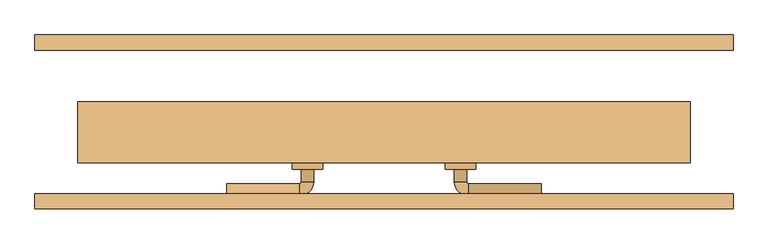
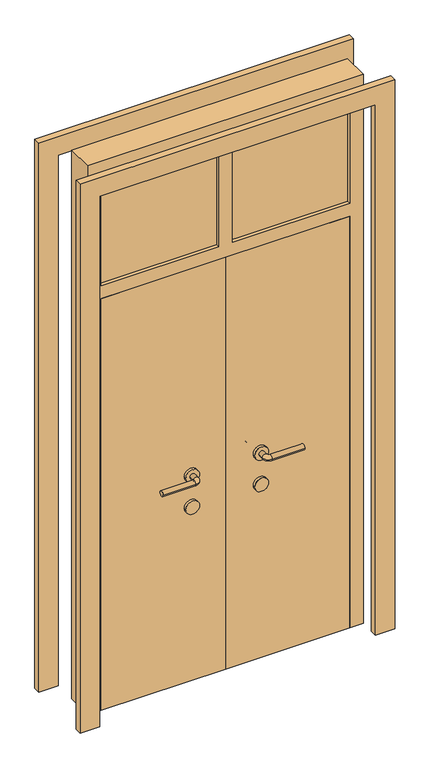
"""IFC4 building model written with IfcOpenShell, lengths in millimetres: door geometry, FM(丙）1 : FM(丙）1."""

from ifc_helpers import new_model, si_unit, point, frame, frame_2d, origin, origin_with_axes, place, context, project, spatial, polyline, circle_curve, ellipse_curve, trimmed, segment, composite_curve, outline, extrude, source, transform, mapped, element, save
from ifc_brep_helpers import plane_surface, cylinder_surface, revolved_surface, advanced_brep


def door_7422e6be(model_context):
    return source(origin(), model_context, "Body", "SolidModel", [
        extrude(outline(composite_curve([segment(trimmed(circle_curve(frame_2d((667.5, 125.0)), 25.0), [point((667.5, 150.0))], [point((667.5, 100.0))], False, "CARTESIAN"), True, "CONTINUOUS"), segment(trimmed(circle_curve(frame_2d((667.5, 125.0)), 25.0), [point((667.5, 100.0))], [point((667.5, 150.0))], False, "CARTESIAN"), True, "CONTINUOUS")], self_intersect=False)), frame((0.0, -27.0, 0.0), z_axis=(0.0, 1.0, 0.0), x_axis=(0.0, 0.0, 1.0)), (0.0, 0.0, 1.0), 10.0),
        extrude(outline(composite_curve([segment(trimmed(circle_curve(frame_2d((667.5, 125.0)), 25.0), [point((667.5, 150.0))], [point((667.5, 100.0))], False, "CARTESIAN"), True, "CONTINUOUS"), segment(trimmed(circle_curve(frame_2d((667.5, 125.0)), 25.0), [point((667.5, 100.0))], [point((667.5, 150.0))], False, "CARTESIAN"), True, "CONTINUOUS")], self_intersect=False)), frame((0.0, -77.0, 0.0), z_axis=(0.0, 1.0, 0.0), x_axis=(0.0, 0.0, 1.0)), (0.0, 0.0, 1.0), 10.0),
        advanced_brep(
        [(115.0, -17.0, 787.5), (135.0, -17.0, 787.5), (115.0, 3.6133551, 787.5), (135.0, 3.6133551, 787.5), (256.580964, 26.580964, 787.5), (256.580964, 6.580964, 787.5), (137.9676089, 6.580964, 787.5), (137.9676089, 26.580964, 787.5)],
        [
            (0, 1, circle_curve(frame((125.0, -17.0, 787.5), z_axis=(0.0, -1.0, 0.0), x_axis=(1.0, 0.0, 0.0)), 10.0)),
            (1, 0, circle_curve(frame((125.0, -17.0, 787.5), z_axis=(0.0, -1.0, 0.0), x_axis=(1.0, 0.0, 0.0)), 10.0)),
            (0, 2),
            (2, 3, circle_curve(frame((125.0, 3.6133551, 787.5), z_axis=(0.0, -1.0, 0.0), x_axis=(1.0, 0.0, 0.0)), 10.0)),
            (3, 1),
            (3, 2, circle_curve(frame((125.0, 3.6133551, 787.5), z_axis=(0.0, -1.0, 0.0), x_axis=(1.0, 0.0, 0.0)), 10.0)),
            (4, 5, circle_curve(frame((256.580964, 16.580964, 787.5), z_axis=(1.0, 0.0, 0.0), x_axis=(0.0, -1.0, 0.0)), 10.0)),
            (5, 4, circle_curve(frame((256.580964, 16.580964, 787.5), z_axis=(1.0, 0.0, 0.0), x_axis=(0.0, -1.0, 0.0)), 10.0)),
            (6, 7, circle_curve(frame((137.9676089, 16.580964, 787.5), z_axis=(-1.0, 0.0, 0.0), x_axis=(0.0, -1.0, 0.0)), 10.0)),
            (7, 2, circle_curve(frame((137.9676089, 3.6133551, 787.5), z_axis=(0.0, 0.0, 1.0), x_axis=(-1.0, 0.0, 0.0)), 22.9676089)),
            (3, 6, circle_curve(frame((137.9676089, 3.6133551, 787.5), z_axis=(0.0, 0.0, -1.0), x_axis=(-1.0, 0.0, 0.0)), 2.9676089)),
            (7, 6, circle_curve(frame((137.9676089, 16.580964, 787.5), z_axis=(-1.0, 0.0, 0.0), x_axis=(0.0, -1.0, 0.0)), 10.0)),
            (6, 5),
            (4, 7),
        ],
        [
            plane_surface(frame((125.0, -17.0, 667.5), z_axis=(0.0, -1.0, 0.0), x_axis=(0.0, 0.0, 1.0))),
            cylinder_surface(frame((125.0, -17.0, 787.5), z_axis=(0.0, -1.0, 0.0), x_axis=(1.0, 0.0, 0.0)), 10.0),
            plane_surface(frame((256.580964, 16.580964, 667.5), z_axis=(1.0, 0.0, 0.0), x_axis=(0.0, 0.0, 1.0))),
            revolved_surface(trimmed(ellipse_curve(frame((125.0, 3.6133551, 787.5), z_axis=(0.0, 1.0, 0.0), x_axis=(1.0, 0.0, 0.0)), 10.0, 10.0), [point((115.0, 3.6133551, 787.5))], [point((135.0, 3.6133551, 787.5))], True, "CARTESIAN"), (137.9676089, 3.6133551, 667.5), (0.0, 0.0, 1.0)),
            revolved_surface(trimmed(ellipse_curve(frame((125.0, 3.6133551, 787.5), z_axis=(0.0, 1.0, 0.0), x_axis=(1.0, 0.0, 0.0)), 10.0, 10.0), [point((135.0, 3.6133551, 787.5))], [point((115.0, 3.6133551, 787.5))], True, "CARTESIAN"), (137.9676089, 3.6133551, 667.5), (0.0, 0.0, 1.0)),
            cylinder_surface(frame((137.9676089, 16.580964, 787.5), z_axis=(-1.0, 0.0, 0.0), x_axis=(0.0, -1.0, 0.0)), 10.0),
        ],
        [
            (0, [[1, 2]]),
            (1, [[3, 4, 5, -1]]),
            (1, [[-5, 6, -3, -2]]),
            (2, [[7, 8]]),
            (3, [[9, 10, -6, 11]]),
            (4, [[12, -11, -4, -10]]),
            (5, [[13, -7, 14, -9]]),
            (5, [[-14, -8, -13, -12]]),
        ],
    ),
        extrude(outline(composite_curve([segment(trimmed(circle_curve(frame_2d((787.5, 125.0)), 25.0), [point((787.5, 150.0))], [point((787.5, 100.0))], False, "CARTESIAN"), True, "CONTINUOUS"), segment(trimmed(circle_curve(frame_2d((787.5, 125.0)), 25.0), [point((787.5, 100.0))], [point((787.5, 150.0))], False, "CARTESIAN"), True, "CONTINUOUS")], self_intersect=False)), frame((0.0, -27.0, 0.0), z_axis=(0.0, 1.0, 0.0), x_axis=(0.0, 0.0, 1.0)), (0.0, 0.0, 1.0), 10.0),
        advanced_brep(
        [(135.0, -77.0, 787.5), (115.0, -77.0, 787.5), (115.0, -97.6133551, 787.5), (135.0, -97.6133551, 787.5), (256.580964, -100.580964, 787.5), (256.580964, -120.580964, 787.5), (137.9676089, -120.580964, 787.5), (137.9676089, -100.580964, 787.5)],
        [
            (0, 1, circle_curve(frame((125.0, -77.0, 787.5), z_axis=(0.0, 1.0, 0.0), x_axis=(-1.0, 0.0, 0.0)), 10.0)),
            (1, 0, circle_curve(frame((125.0, -77.0, 787.5), z_axis=(0.0, 1.0, 0.0), x_axis=(-1.0, 0.0, 0.0)), 10.0)),
            (1, 2),
            (2, 3, circle_curve(frame((125.0, -97.6133551, 787.5), z_axis=(0.0, 1.0, 0.0), x_axis=(-1.0, 0.0, 0.0)), 10.0)),
            (3, 0),
            (3, 2, circle_curve(frame((125.0, -97.6133551, 787.5), z_axis=(0.0, 1.0, 0.0), x_axis=(-1.0, 0.0, 0.0)), 10.0)),
            (4, 5, circle_curve(frame((256.580964, -110.580964, 787.5), z_axis=(1.0, 0.0, 0.0), x_axis=(0.0, -1.0, 0.0)), 10.0)),
            (5, 4, circle_curve(frame((256.580964, -110.580964, 787.5), z_axis=(1.0, 0.0, 0.0), x_axis=(0.0, -1.0, 0.0)), 10.0)),
            (6, 7, circle_curve(frame((137.9676089, -110.580964, 787.5), z_axis=(-1.0, 0.0, 0.0), x_axis=(0.0, -1.0, 0.0)), 10.0)),
            (7, 3, circle_curve(frame((137.9676089, -97.6133551, 787.5), z_axis=(0.0, 0.0, -1.0), x_axis=(-1.0, 0.0, 0.0)), 2.9676089)),
            (2, 6, circle_curve(frame((137.9676089, -97.6133551, 787.5), z_axis=(0.0, 0.0, 1.0), x_axis=(-1.0, 0.0, 0.0)), 22.9676089)),
            (7, 6, circle_curve(frame((137.9676089, -110.580964, 787.5), z_axis=(-1.0, 0.0, 0.0), x_axis=(0.0, -1.0, 0.0)), 10.0)),
            (6, 5),
            (4, 7),
        ],
        [
            plane_surface(frame((125.0, -77.0, 667.5), z_axis=(0.0, 1.0, 0.0), x_axis=(0.0, 0.0, 1.0))),
            cylinder_surface(frame((125.0, -77.0, 787.5), z_axis=(0.0, 1.0, 0.0), x_axis=(-1.0, 0.0, 0.0)), 10.0),
            plane_surface(frame((256.580964, -110.580964, 667.5), z_axis=(1.0, 0.0, 0.0), x_axis=(0.0, 0.0, 1.0))),
            revolved_surface(trimmed(ellipse_curve(frame((125.0, -97.6133551, 787.5), z_axis=(0.0, -1.0, 0.0), x_axis=(-1.0, 0.0, 0.0)), 10.0, 10.0), [point((135.0, -97.6133551, 787.5))], [point((115.0, -97.6133551, 787.5))], True, "CARTESIAN"), (137.9676089, -97.6133551, 667.5), (0.0, 0.0, -1.0)),
            revolved_surface(trimmed(ellipse_curve(frame((125.0, -97.6133551, 787.5), z_axis=(0.0, -1.0, 0.0), x_axis=(-1.0, 0.0, 0.0)), 10.0, 10.0), [point((115.0, -97.6133551, 787.5))], [point((135.0, -97.6133551, 787.5))], True, "CARTESIAN"), (137.9676089, -97.6133551, 667.5), (0.0, 0.0, -1.0)),
            cylinder_surface(frame((137.9676089, -110.580964, 787.5), z_axis=(-1.0, 0.0, 0.0), x_axis=(0.0, -1.0, 0.0)), 10.0),
        ],
        [
            (0, [[1, 2]]),
            (1, [[3, 4, 5, -2]]),
            (1, [[-5, 6, -3, -1]]),
            (2, [[7, 8]]),
            (3, [[9, 10, -4, 11]]),
            (4, [[12, -11, -6, -10]]),
            (5, [[13, -7, 14, -9]]),
            (5, [[-14, -8, -13, -12]]),
        ],
    ),
        extrude(outline(composite_curve([segment(trimmed(circle_curve(frame_2d((787.5, 125.0)), 25.0), [point((787.5, 150.0))], [point((787.5, 100.0))], False, "CARTESIAN"), True, "CONTINUOUS"), segment(trimmed(circle_curve(frame_2d((787.5, 125.0)), 25.0), [point((787.5, 100.0))], [point((787.5, 150.0))], False, "CARTESIAN"), True, "CONTINUOUS")], self_intersect=False)), frame((0.0, -77.0, 0.0), z_axis=(0.0, 1.0, 0.0), x_axis=(0.0, 0.0, 1.0)), (0.0, 0.0, 1.0), 10.0),
        extrude(outline(composite_curve([segment(trimmed(circle_curve(frame_2d((667.5, -125.0)), 25.0), [point((667.5, -150.0))], [point((667.5, -100.0))], False, "CARTESIAN"), True, "CONTINUOUS"), segment(trimmed(circle_curve(frame_2d((667.5, -125.0)), 25.0), [point((667.5, -100.0))], [point((667.5, -150.0))], False, "CARTESIAN"), True, "CONTINUOUS")], self_intersect=False)), frame((0.0, -77.0, 0.0), z_axis=(0.0, 1.0, 0.0), x_axis=(0.0, 0.0, 1.0)), (0.0, 0.0, 1.0), 10.0),
        extrude(outline(composite_curve([segment(trimmed(circle_curve(frame_2d((667.5, -125.0)), 25.0), [point((667.5, -150.0))], [point((667.5, -100.0))], False, "CARTESIAN"), True, "CONTINUOUS"), segment(trimmed(circle_curve(frame_2d((667.5, -125.0)), 25.0), [point((667.5, -100.0))], [point((667.5, -150.0))], False, "CARTESIAN"), True, "CONTINUOUS")], self_intersect=False)), frame((0.0, -27.0, 0.0), z_axis=(0.0, 1.0, 0.0), x_axis=(0.0, 0.0, 1.0)), (0.0, 0.0, 1.0), 10.0),
        advanced_brep(
        [(-115.0, -77.0, 787.5), (-135.0, -77.0, 787.5), (-115.0, -97.6133551, 787.5), (-135.0, -97.6133551, 787.5), (-256.580964, -120.580964, 787.5), (-256.580964, -100.580964, 787.5), (-137.9676089, -100.580964, 787.5), (-137.9676089, -120.580964, 787.5)],
        [
            (0, 1, circle_curve(frame((-125.0, -77.0, 787.5), z_axis=(0.0, 1.0, 0.0), x_axis=(-1.0, 0.0, 0.0)), 10.0)),
            (1, 0, circle_curve(frame((-125.0, -77.0, 787.5), z_axis=(0.0, 1.0, 0.0), x_axis=(-1.0, 0.0, 0.0)), 10.0)),
            (0, 2),
            (2, 3, circle_curve(frame((-125.0, -97.6133551, 787.5), z_axis=(0.0, 1.0, 0.0), x_axis=(-1.0, 0.0, 0.0)), 10.0)),
            (3, 1),
            (3, 2, circle_curve(frame((-125.0, -97.6133551, 787.5), z_axis=(0.0, 1.0, 0.0), x_axis=(-1.0, 0.0, 0.0)), 10.0)),
            (4, 5, circle_curve(frame((-256.580964, -110.580964, 787.5), z_axis=(-1.0, 0.0, 0.0), x_axis=(0.0, 1.0, 0.0)), 10.0)),
            (5, 4, circle_curve(frame((-256.580964, -110.580964, 787.5), z_axis=(-1.0, 0.0, 0.0), x_axis=(0.0, 1.0, 0.0)), 10.0)),
            (6, 7, circle_curve(frame((-137.9676089, -110.580964, 787.5), z_axis=(1.0, 0.0, 0.0), x_axis=(0.0, 1.0, 0.0)), 10.0)),
            (7, 2, circle_curve(frame((-137.9676089, -97.6133551, 787.5), z_axis=(0.0, 0.0, 1.0), x_axis=(1.0, 0.0, 0.0)), 22.9676089)),
            (3, 6, circle_curve(frame((-137.9676089, -97.6133551, 787.5), z_axis=(0.0, 0.0, -1.0), x_axis=(1.0, 0.0, 0.0)), 2.9676089)),
            (7, 6, circle_curve(frame((-137.9676089, -110.580964, 787.5), z_axis=(1.0, 0.0, 0.0), x_axis=(0.0, 1.0, 0.0)), 10.0)),
            (6, 5),
            (4, 7),
        ],
        [
            plane_surface(frame((-125.0, -77.0, 667.5), z_axis=(0.0, 1.0, 0.0), x_axis=(0.0, 0.0, 1.0))),
            cylinder_surface(frame((-125.0, -77.0, 787.5), z_axis=(0.0, 1.0, 0.0), x_axis=(-1.0, 0.0, 0.0)), 10.0),
            plane_surface(frame((-256.580964, -110.580964, 667.5), z_axis=(-1.0, 0.0, 0.0), x_axis=(0.0, 0.0, 1.0))),
            revolved_surface(trimmed(ellipse_curve(frame((-125.0, -97.6133551, 787.5), z_axis=(0.0, -1.0, 0.0), x_axis=(-1.0, 0.0, 0.0)), 10.0, 10.0), [point((-115.0, -97.6133551, 787.5))], [point((-135.0, -97.6133551, 787.5))], True, "CARTESIAN"), (-137.9676089, -97.6133551, 667.5), (0.0, 0.0, 1.0)),
            revolved_surface(trimmed(ellipse_curve(frame((-125.0, -97.6133551, 787.5), z_axis=(0.0, -1.0, 0.0), x_axis=(-1.0, 0.0, 0.0)), 10.0, 10.0), [point((-135.0, -97.6133551, 787.5))], [point((-115.0, -97.6133551, 787.5))], True, "CARTESIAN"), (-137.9676089, -97.6133551, 667.5), (0.0, 0.0, 1.0)),
            cylinder_surface(frame((-137.9676089, -110.580964, 787.5), z_axis=(1.0, 0.0, 0.0), x_axis=(0.0, 1.0, 0.0)), 10.0),
        ],
        [
            (0, [[1, 2]]),
            (1, [[3, 4, 5, -1]]),
            (1, [[-5, 6, -3, -2]]),
            (2, [[7, 8]]),
            (3, [[9, 10, -6, 11]]),
            (4, [[12, -11, -4, -10]]),
            (5, [[13, -7, 14, -9]]),
            (5, [[-14, -8, -13, -12]]),
        ],
    ),
        extrude(outline(composite_curve([segment(trimmed(circle_curve(frame_2d((787.5, -125.0)), 25.0), [point((787.5, -150.0))], [point((787.5, -100.0))], False, "CARTESIAN"), True, "CONTINUOUS"), segment(trimmed(circle_curve(frame_2d((787.5, -125.0)), 25.0), [point((787.5, -100.0))], [point((787.5, -150.0))], False, "CARTESIAN"), True, "CONTINUOUS")], self_intersect=False)), frame((0.0, -77.0, 0.0), z_axis=(0.0, 1.0, 0.0), x_axis=(0.0, 0.0, 1.0)), (0.0, 0.0, 1.0), 10.0),
        advanced_brep(
        [(-135.0, -17.0, 787.5), (-115.0, -17.0, 787.5), (-115.0, 3.6133551, 787.5), (-135.0, 3.6133551, 787.5), (-256.580964, 6.580964, 787.5), (-256.580964, 26.580964, 787.5), (-137.9676089, 26.580964, 787.5), (-137.9676089, 6.580964, 787.5)],
        [
            (0, 1, circle_curve(frame((-125.0, -17.0, 787.5), z_axis=(0.0, -1.0, 0.0), x_axis=(1.0, 0.0, 0.0)), 10.0)),
            (1, 0, circle_curve(frame((-125.0, -17.0, 787.5), z_axis=(0.0, -1.0, 0.0), x_axis=(1.0, 0.0, 0.0)), 10.0)),
            (1, 2),
            (2, 3, circle_curve(frame((-125.0, 3.6133551, 787.5), z_axis=(0.0, -1.0, 0.0), x_axis=(1.0, 0.0, 0.0)), 10.0)),
            (3, 0),
            (3, 2, circle_curve(frame((-125.0, 3.6133551, 787.5), z_axis=(0.0, -1.0, 0.0), x_axis=(1.0, 0.0, 0.0)), 10.0)),
            (4, 5, circle_curve(frame((-256.580964, 16.580964, 787.5), z_axis=(-1.0, 0.0, 0.0), x_axis=(0.0, 1.0, 0.0)), 10.0)),
            (5, 4, circle_curve(frame((-256.580964, 16.580964, 787.5), z_axis=(-1.0, 0.0, 0.0), x_axis=(0.0, 1.0, 0.0)), 10.0)),
            (6, 7, circle_curve(frame((-137.9676089, 16.580964, 787.5), z_axis=(1.0, 0.0, 0.0), x_axis=(0.0, 1.0, 0.0)), 10.0)),
            (7, 3, circle_curve(frame((-137.9676089, 3.6133551, 787.5), z_axis=(0.0, 0.0, -1.0), x_axis=(1.0, 0.0, 0.0)), 2.9676089)),
            (2, 6, circle_curve(frame((-137.9676089, 3.6133551, 787.5), z_axis=(0.0, 0.0, 1.0), x_axis=(1.0, 0.0, 0.0)), 22.9676089)),
            (7, 6, circle_curve(frame((-137.9676089, 16.580964, 787.5), z_axis=(1.0, 0.0, 0.0), x_axis=(0.0, 1.0, 0.0)), 10.0)),
            (6, 5),
            (4, 7),
        ],
        [
            plane_surface(frame((-125.0, -17.0, 667.5), z_axis=(0.0, -1.0, 0.0), x_axis=(0.0, 0.0, 1.0))),
            cylinder_surface(frame((-125.0, -17.0, 787.5), z_axis=(0.0, -1.0, 0.0), x_axis=(1.0, 0.0, 0.0)), 10.0),
            plane_surface(frame((-256.580964, 16.580964, 667.5), z_axis=(-1.0, 0.0, 0.0), x_axis=(0.0, 0.0, 1.0))),
            revolved_surface(trimmed(ellipse_curve(frame((-125.0, 3.6133551, 787.5), z_axis=(0.0, 1.0, 0.0), x_axis=(1.0, 0.0, 0.0)), 10.0, 10.0), [point((-135.0, 3.6133551, 787.5))], [point((-115.0, 3.6133551, 787.5))], True, "CARTESIAN"), (-137.9676089, 3.6133551, 667.5), (0.0, 0.0, -1.0)),
            revolved_surface(trimmed(ellipse_curve(frame((-125.0, 3.6133551, 787.5), z_axis=(0.0, 1.0, 0.0), x_axis=(1.0, 0.0, 0.0)), 10.0, 10.0), [point((-115.0, 3.6133551, 787.5))], [point((-135.0, 3.6133551, 787.5))], True, "CARTESIAN"), (-137.9676089, 3.6133551, 667.5), (0.0, 0.0, -1.0)),
            cylinder_surface(frame((-137.9676089, 16.580964, 787.5), z_axis=(1.0, 0.0, 0.0), x_axis=(0.0, 1.0, 0.0)), 10.0),
        ],
        [
            (0, [[1, 2]]),
            (1, [[3, 4, 5, -2]]),
            (1, [[-5, 6, -3, -1]]),
            (2, [[7, 8]]),
            (3, [[9, 10, -4, 11]]),
            (4, [[12, -11, -6, -10]]),
            (5, [[13, -7, 14, -9]]),
            (5, [[-14, -8, -13, -12]]),
        ],
    ),
        extrude(outline(composite_curve([segment(trimmed(circle_curve(frame_2d((787.5, -125.0)), 25.0), [point((787.5, -150.0))], [point((787.5, -100.0))], False, "CARTESIAN"), True, "CONTINUOUS"), segment(trimmed(circle_curve(frame_2d((787.5, -125.0)), 25.0), [point((787.5, -100.0))], [point((787.5, -150.0))], False, "CARTESIAN"), True, "CONTINUOUS")], self_intersect=False)), frame((0.0, -27.0, 0.0), z_axis=(0.0, 1.0, 0.0), x_axis=(0.0, 0.0, 1.0)), (0.0, 0.0, 1.0), 10.0),
        extrude(outline(polyline([(0.0, -500.0), (2030.0, -500.0), (2030.0, 500.0), (0.0, 500.0), (0.0, 570.0), (2100.0, 570.0), (2100.0, -570.0), (0.0, -570.0), (0.0, -500.0)])), frame((0.0, 117.0, 0.0), z_axis=(0.0, 1.0, 0.0), x_axis=(0.0, 0.0, 1.0)), (0.0, 0.0, 1.0), 25.0),
        extrude(outline(polyline([(0.0, -500.0), (2030.0, -500.0), (2030.0, 500.0), (0.0, 500.0), (0.0, 570.0), (2100.0, 570.0), (2100.0, -570.0), (0.0, -570.0), (0.0, -500.0)])), frame((0.0, -142.0, 0.0), z_axis=(0.0, 1.0, 0.0), x_axis=(0.0, 0.0, 1.0)), (0.0, 0.0, 1.0), 25.0),
        extrude(outline(polyline([(450.0, -16.2), (450.0, -54.3), (25.0, -54.3), (25.0, -16.2), (450.0, -16.2)])), frame((0.0, 0.0, 1625.0), z_axis=(0.0, 0.0, 1.0), x_axis=(1.0, 0.0, 0.0)), (0.0, 0.0, 1.0), 425.0),
        extrude(outline(polyline([(-25.0, -16.2), (-25.0, -54.3), (-450.0, -54.3), (-450.0, -16.2), (-25.0, -16.2)])), frame((0.0, 0.0, 1625.0), z_axis=(0.0, 0.0, 1.0), x_axis=(1.0, 0.0, 0.0)), (0.0, 0.0, 1.0), 425.0),
        extrude(outline(polyline([(0.0, -27.0), (0.0, -67.0), (-450.0, -67.0), (-450.0, -27.0), (0.0, -27.0)])), origin_with_axes(), (0.0, 0.0, 1.0), 1575.0),
        extrude(outline(polyline([(450.0, -27.0), (450.0, -67.0), (0.0, -67.0), (0.0, -27.0), (450.0, -27.0)])), origin_with_axes(), (0.0, 0.0, 1.0), 1575.0),
        extrude(outline(polyline([(0.0, 500.0), (2100.0, 500.0), (2100.0, -500.0), (0.0, -500.0), (0.0, -450.0), (1575.0, -450.0), (1575.0, 450.0), (0.0, 450.0), (0.0, 500.0)]), holes=[polyline([(2050.0, 25.0), (2050.0, 450.0), (1625.0, 450.0), (1625.0, 25.0), (2050.0, 25.0)]), polyline([(1625.0, -25.0), (1625.0, -450.0), (2050.0, -450.0), (2050.0, -25.0), (1625.0, -25.0)])]), frame((0.0, -67.0, 0.0), z_axis=(0.0, 1.0, 0.0), x_axis=(0.0, 0.0, 1.0)), (0.0, 0.0, 1.0), 100.0),
    ])


if __name__ == "__main__":
    model = new_model("IFC4")
    model_context = context("Model", 3, world=origin())
    ifc_project = project(units=[si_unit("LENGTHUNIT", "METRE", prefix="MILLI")], contexts=[model_context])
    site = spatial("IfcSite", under=ifc_project)
    building = spatial("IfcBuilding", under=site)
    placement = place(None, origin())
    door_shape = door_7422e6be(model_context)
    element("IfcDoor", 1, ObjectType="FM(丙）1 : FM(丙）1", at=placement, inside=building, context=model_context, shape_type="MappedRepresentation", body=[
        mapped(door_shape, transform((0.0, 0.0, 0.0), x_axis=(1.0, 0.0, 0.0), y_axis=(0.0, 1.0, 0.0), z_axis=(0.0, 0.0, 1.0))),
    ])
    save(model, "model.ifc")
